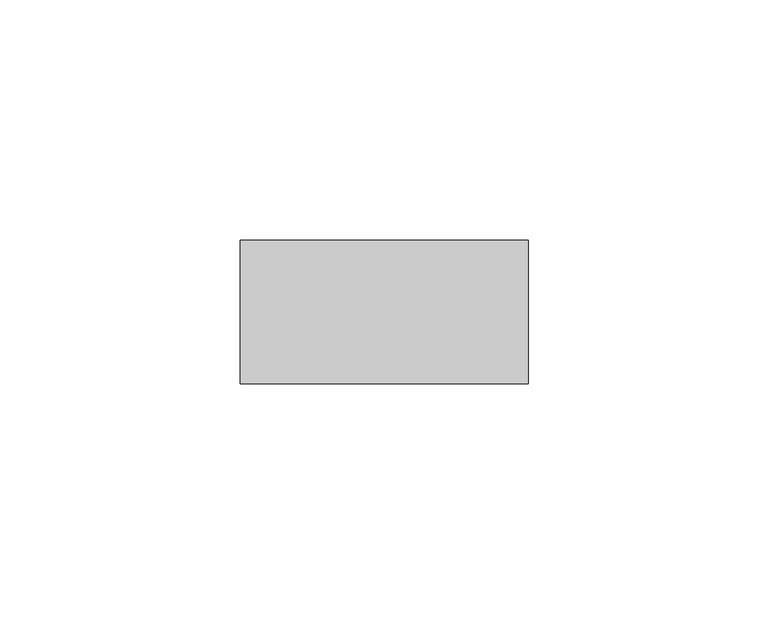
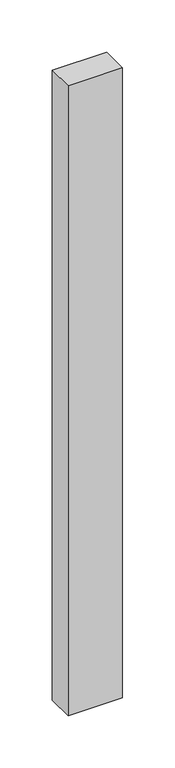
"""IFC4 building model written with IfcOpenShell, lengths in millimetres: member geometry, Прямоугольный импост : Квадрат 30 мм."""

from ifc_helpers import new_model, si_unit, frame, origin, place, context, project, spatial, polyline, outline, extrude, source, transform, mapped, element, save


def member_3f87395f(model_context):
    return source(origin(), model_context, "Body", "SweptSolid", [
        extrude(outline(polyline([(30.0, 15.0), (30.0, -15.0), (-30.0, -15.0), (-30.0, 15.0), (30.0, 15.0)])), frame((0.0, 0.0, -734.0774077), z_axis=(0.0, 0.0, 1.0), x_axis=(1.0, 0.0, 0.0)), (0.0, 0.0, 1.0), 734.0774077),
    ])


if __name__ == "__main__":
    model = new_model("IFC4")
    model_context = context("Model", 3, world=origin())
    ifc_project = project(units=[si_unit("LENGTHUNIT", "METRE", prefix="MILLI")], contexts=[model_context])
    site = spatial("IfcSite", under=ifc_project)
    building = spatial("IfcBuilding", under=site)
    placement = place(None, origin())
    member_shape = member_3f87395f(model_context)
    element("IfcMember", 1, ObjectType="Прямоугольный импост : Квадрат 30 мм", at=placement, inside=building, context=model_context, shape_type="MappedRepresentation", body=[
        mapped(member_shape, transform((0.0, 0.0, 0.0), x_axis=(1.0, 0.0, 0.0), y_axis=(0.0, 1.0, 0.0), z_axis=(0.0, 0.0, 1.0))),
    ])
    save(model, "model.ifc")
